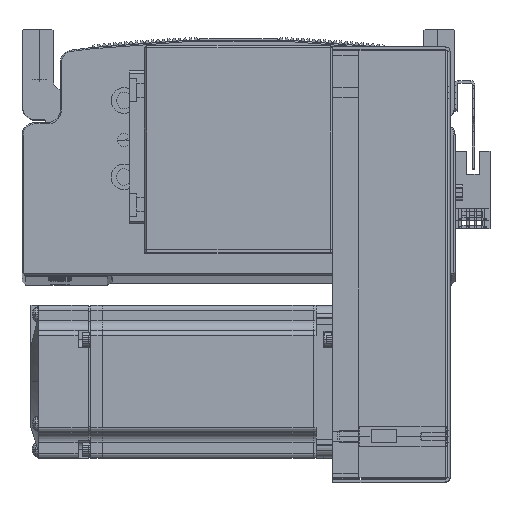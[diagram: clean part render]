
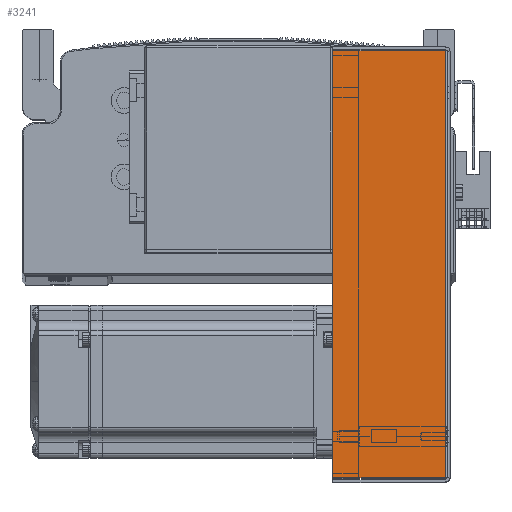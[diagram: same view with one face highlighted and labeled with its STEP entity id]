
A CAD part, top view. The second image highlights one B-rep face of the part: STEP entity #3241.
In plain terms, the highlighted planar face has unit normal (0, 0, 1) as drawn and (0, 0, -1) by its records, which use the part's own axes.
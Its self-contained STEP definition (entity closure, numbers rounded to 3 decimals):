
#3241 = ADVANCED_FACE ( 'NONE', ( #39226 ), #11575, .F. ) ;
#10563 = VECTOR ( 'NONE', #79457, 1000. ) ;
#10566 = VECTOR ( 'NONE', #79519, 1000. ) ;
#10570 = LINE ( 'NONE', #79498, #10579 ) ;
#10578 = LINE ( 'NONE', #79486, #10566 ) ;
#10579 = VECTOR ( 'NONE', #79472, 1000. ) ;
#10595 = LINE ( 'NONE', #79489, #10563 ) ;
#10612 = LINE ( 'NONE', #79588, #10613 ) ;
#10613 = VECTOR ( 'NONE', #79594, 1000. ) ;
#11535 = CARTESIAN_POINT ( 'NONE',  ( 0., 0., -40.5 ) ) ;
#11541 = DIRECTION ( 'NONE',  ( 0., 0., 1. ) ) ;
#11558 = DIRECTION ( 'NONE',  ( 0., -1., 0. ) ) ;
#11575 = PLANE ( 'NONE',  #33998 ) ;
#29210 = VERTEX_POINT ( 'NONE', #85869 ) ;
#29215 = VERTEX_POINT ( 'NONE', #85867 ) ;
#29268 = VERTEX_POINT ( 'NONE', #85822 ) ;
#29401 = VERTEX_POINT ( 'NONE', #85957 ) ;
#33998 = AXIS2_PLACEMENT_3D ( 'NONE', #11535, #11541, #11558 ) ;
#39226 = FACE_OUTER_BOUND ( 'NONE', #82287, .T. ) ;
#54430 = ORIENTED_EDGE ( 'NONE', *, *, #59927, .F. ) ;
#54507 = ORIENTED_EDGE ( 'NONE', *, *, #59955, .T. ) ;
#54568 = ORIENTED_EDGE ( 'NONE', *, *, #59925, .F. ) ;
#54572 = ORIENTED_EDGE ( 'NONE', *, *, #59932, .T. ) ;
#59925 = EDGE_CURVE ( 'NONE', #29268, #29215, #10578, .T. ) ;
#59927 = EDGE_CURVE ( 'NONE', #29215, #29210, #10595, .T. ) ;
#59932 = EDGE_CURVE ( 'NONE', #29268, #29401, #10570, .T. ) ;
#59955 = EDGE_CURVE ( 'NONE', #29401, #29210, #10612, .T. ) ;
#79457 = DIRECTION ( 'NONE',  ( 0., 1., 0. ) ) ;
#79472 = DIRECTION ( 'NONE',  ( 0., 1., 0. ) ) ;
#79486 = CARTESIAN_POINT ( 'NONE',  ( 0., 0.737, -40.5 ) ) ;
#79489 = CARTESIAN_POINT ( 'NONE',  ( 83.793, 0., -40.5 ) ) ;
#79498 = CARTESIAN_POINT ( 'NONE',  ( -83.793, 0., -40.5 ) ) ;
#79519 = DIRECTION ( 'NONE',  ( 1., 0., 0. ) ) ;
#79588 = CARTESIAN_POINT ( 'NONE',  ( 84.5, 45., -40.5 ) ) ;
#79594 = DIRECTION ( 'NONE',  ( 1., 0., 0. ) ) ;
#82287 = EDGE_LOOP ( 'NONE', ( #54568, #54572, #54507, #54430 ) ) ;
#85822 = CARTESIAN_POINT ( 'NONE',  ( -83.793, 0.737, -40.5 ) ) ;
#85867 = CARTESIAN_POINT ( 'NONE',  ( 83.793, 0.737, -40.5 ) ) ;
#85869 = CARTESIAN_POINT ( 'NONE',  ( 83.793, 45., -40.5 ) ) ;
#85957 = CARTESIAN_POINT ( 'NONE',  ( -83.793, 45., -40.5 ) ) ;
